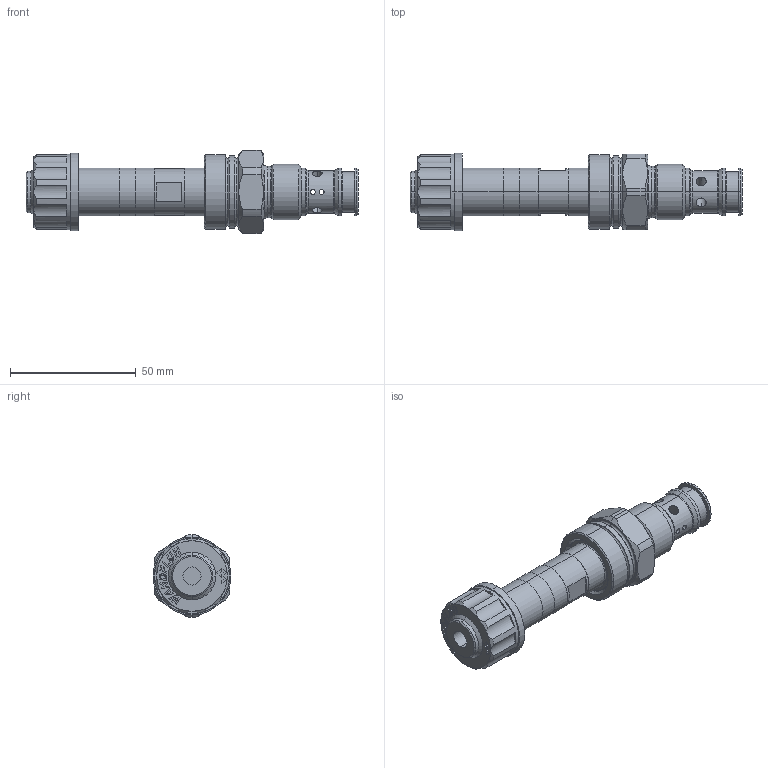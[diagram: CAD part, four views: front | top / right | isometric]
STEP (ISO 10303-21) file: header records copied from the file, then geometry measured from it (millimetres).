
FILE_DESCRIPTION (( 'STEP AP214' ), '1' );
FILE_NAME ('DNPPM22.STEP', '2014-03-19T08:29:27', ( '' ), ( '' ), 'SwSTEP 2.0', 'SolidWorks 2012', '' );
FILE_SCHEMA (( 'AUTOMOTIVE_DESIGN' ));
Length unit declared in the file: millimetre
Products named in the file (1): DNPPM22
Bounding box: 132 x 31 x 33 mm (x, y, z)
Volume: 50747.1 mm3; surface area: 19384.5 mm2
Topology: 4 solids, 6 shells, 393 faces, 933 edges, 579 vertices
Faces by surface type: plane 159, cylinder 108, cone 64, torus 46, bspline 16
Entity records: 17238 total; most frequent: CARTESIAN_POINT 3738, DIRECTION 1922, ORIENTED_EDGE 1866, EDGE_CURVE 933, AXIS2_PLACEMENT_3D 721, VERTEX_POINT 579, VECTOR 480, LINE 480
